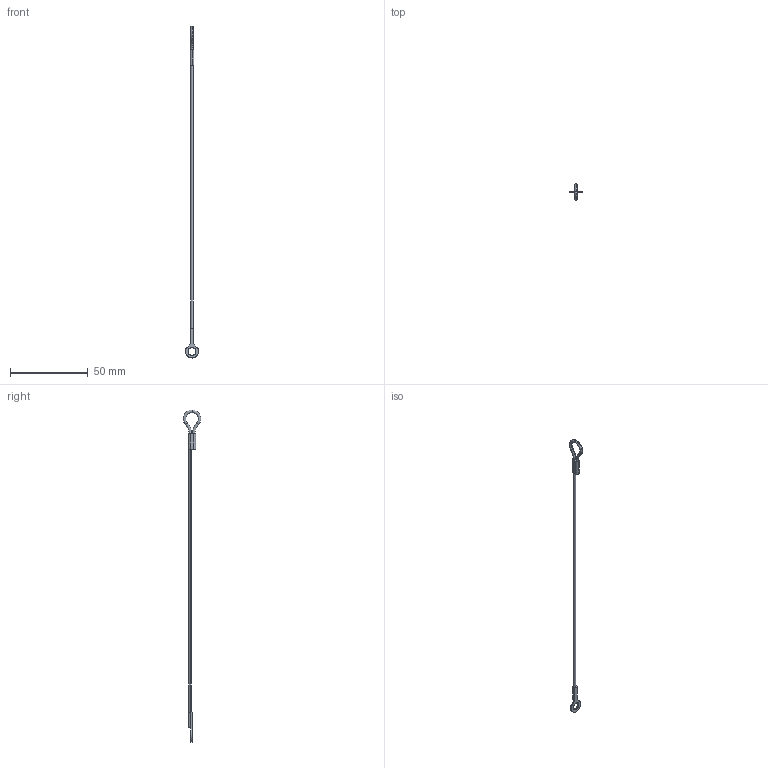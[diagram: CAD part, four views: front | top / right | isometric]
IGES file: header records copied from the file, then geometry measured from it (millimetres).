
Start section: SolidWorks IGES file using analytic representation for surfaces
Global section: file name: C:\Users\ianosborn\Desktop\LA1075_v2\LA1075_v2_20260320_IGES\LA1075.I04-203B1.igs; native system: SolidWorks 2019; preprocessor: SolidWorks 2019; author: IanOsborn; date: 260323.164057; units: millimetre
Bounding box: 8.38 x 11.16 x 212.99 mm (x, y, z)
Surface area: 1366.3 mm2 (no closed solid volume)
Topology: 0 solids, 0 shells, 30 faces, 404 edges, 404 vertices
Faces by surface type: bspline 20, revolution 10
